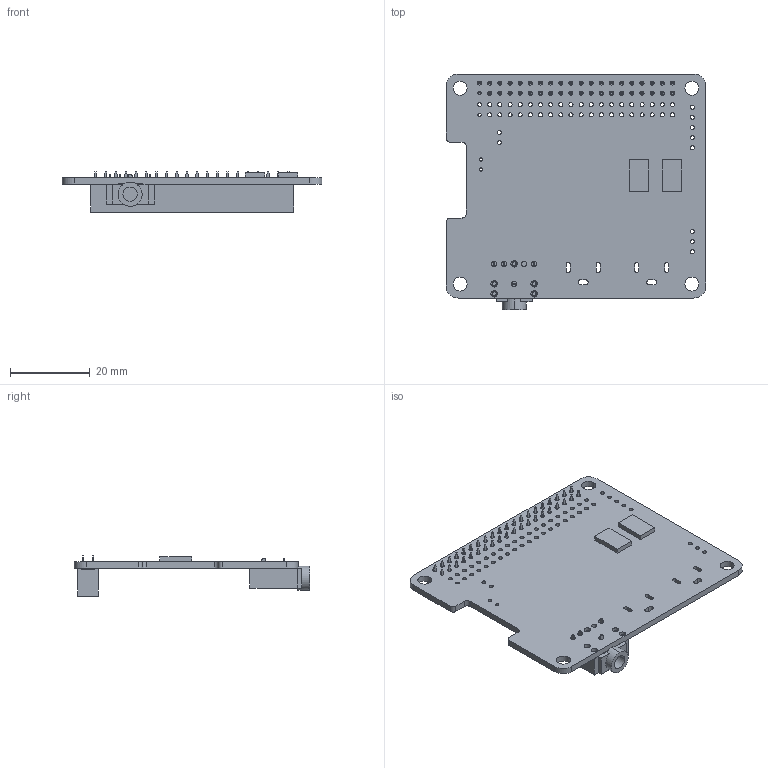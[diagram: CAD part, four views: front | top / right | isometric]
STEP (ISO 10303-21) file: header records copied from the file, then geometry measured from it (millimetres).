
FILE_DESCRIPTION(('KiCad electronic assembly'),'2;1');
FILE_NAME('hifiberry-dac-phone.step','2019-07-25T13:57:58',('An Author') ,('A Company'),'Open CASCADE STEP processor 6.9', 'KiCad to STEP converter','Unknown');
FILE_SCHEMA(('AUTOMOTIVE_DESIGN { 1 0 10303 214 1 1 1 1 }'));
Length unit declared in the file: millimetre
Products named in the file (8): Open CASCADE STEP translator 6.9 1; PinSocket_2x20_P2.54mm_Vertical; SOLID; Oscillator; 35RAPC3BHN2; COMPOUND
Assembly tree (8 placements, depth 3):
  Open CASCADE STEP translator 6.9 1
    PinSocket_2x20_P2.54mm_Vertical
      SOLID
    Oscillator  x2
      SOLID
    35RAPC3BHN2
      SOLID
    COMPOUND
Bounding box: 65 x 58.95 x 10.1 mm (x, y, z)
Volume: 7996.7 mm3; surface area: 10922.4 mm2
Topology: 5 solids, 5 shells, 1619 faces, 4260 edges, 2786 vertices
Faces by surface type: plane 1474, cylinder 145
Full cylindrical faces by diameter (mm): 0.813 x4, 1.016 x88, 1.3 x5, 1.6 x5, 3.5 x4
Entity records: 114219 total; most frequent: CARTESIAN_POINT 18812, DIRECTION 16006, LINE 12152, VECTOR 12152, ORIENTED_EDGE 8496, PCURVE 8496, DEFINITIONAL_REPRESENTATION 8496, EDGE_CURVE 4248
